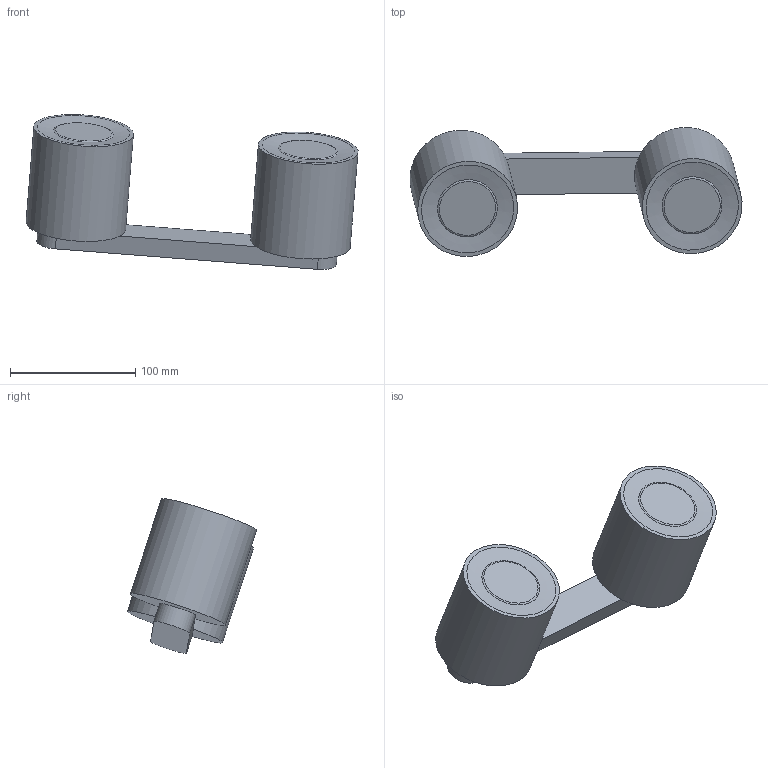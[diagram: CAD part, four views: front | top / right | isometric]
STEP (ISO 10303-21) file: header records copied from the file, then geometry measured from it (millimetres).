
FILE_DESCRIPTION(/* description */ (''),/* implementation_level */ '2;1');
FILE_NAME(/* name */ 'D:\TK Lighting\2021\Vico\6509\Vico 6509.stp',/* time_stamp */ '2021-02-01T21:09:40+01:00',/* author */ ('Admin'),/* organization */ (''),/* preprocessor_version */ 'ST-DEVELOPER v16.5',/* originating_system */ 'Autodesk Inventor 2017',/* authorisation */ '');
FILE_SCHEMA (('AUTOMOTIVE_DESIGN { 1 0 10303 214 3 1 1 }'));
Length unit declared in the file: millimetre
Products named in the file (3): Vico 6509; Zawiesie 6509; Klosz
Assembly tree (3 placements, depth 2):
  Vico 6509
    Zawiesie 6509
    Klosz  x2
Bounding box: 265.26 x 102.95 x 123.85 mm (x, y, z)
Volume: 227313.8 mm3; surface area: 137198.5 mm2
Topology: 3 solids, 5 shells, 42 faces, 64 edges, 42 vertices
Faces by surface type: plane 22, cylinder 14, cone 4, torus 2
Full cylindrical faces by diameter (mm): 10 x4, 48 x2, 52 x2, 76 x2, 80 x2
Entity records: 678 total; most frequent: DIRECTION 116, CARTESIAN_POINT 88, ORIENTED_EDGE 60, AXIS2_PLACEMENT_3D 54, EDGE_LOOP 42, EDGE_CURVE 30, STYLED_ITEM 28, FACE_OUTER_BOUND 26
